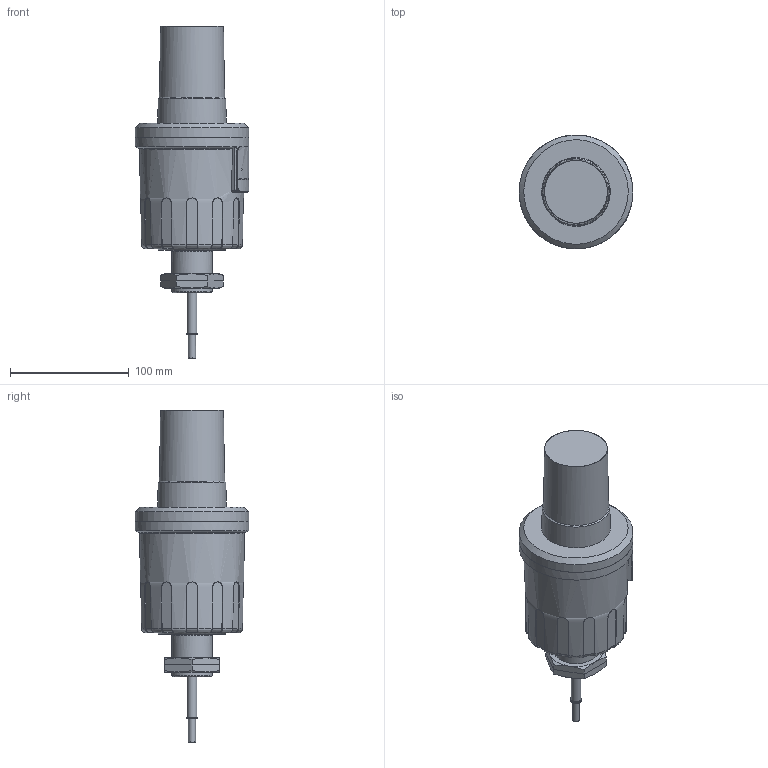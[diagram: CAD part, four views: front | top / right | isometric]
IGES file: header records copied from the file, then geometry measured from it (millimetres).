
Global section: file name: SP_370; native system: Autodesk Inventor 2015; preprocessor: unknown; author: aantal; date: 20150623.094551; units: millimetre
Bounding box: 96 x 95.92 x 280 mm (x, y, z)
Volume: 889835.4 mm3; surface area: 89700.8 mm2
Topology: 5 solids, 5 shells, 291 faces, 769 edges, 508 vertices
Faces by surface type: bspline 291
